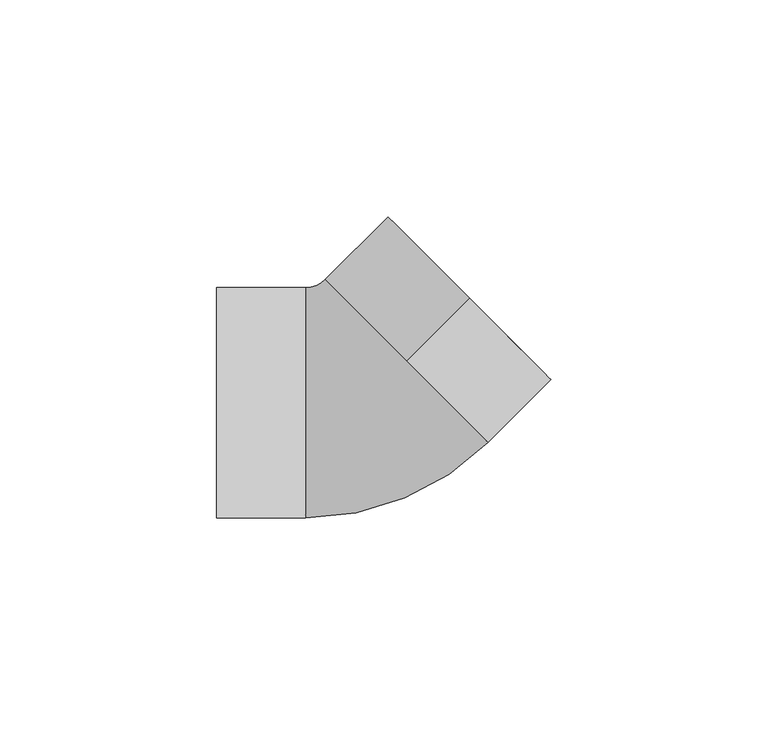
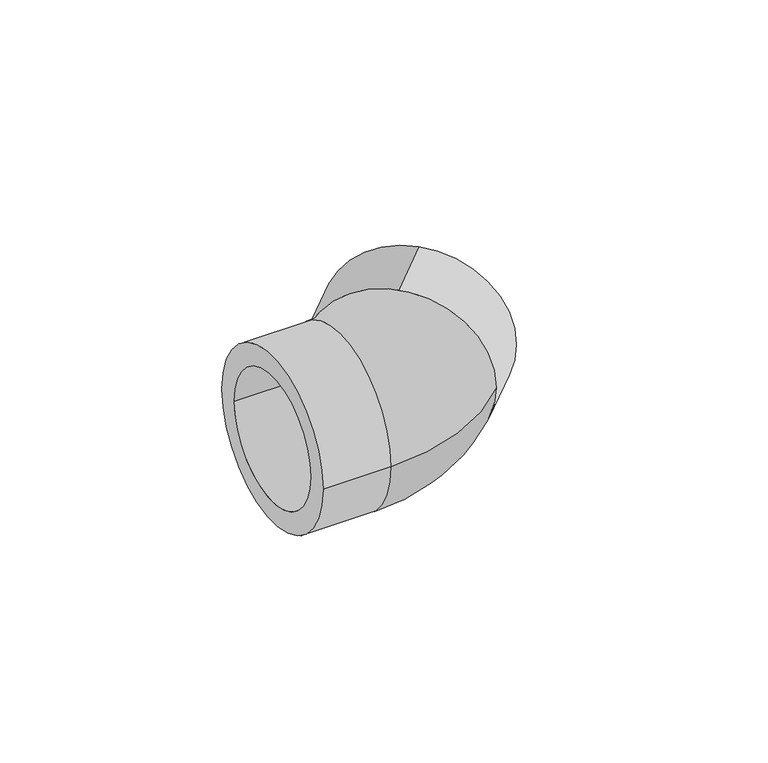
"""IFC4 building model written with IfcOpenShell, lengths in millimetres: pipe fitting geometry, 34_Угольник полипропиленовый 45 : Белый цвет."""

from ifc_helpers import new_model, si_unit, point, frame, origin, place, context, project, spatial, polyline, circle_curve, ellipse_curve, trimmed, source, transform, mapped, element, save
from ifc_brep_helpers import plane_surface, cylinder_surface, revolved_surface, advanced_brep


def pipe_fitting_35174708(model_context):
    return source(origin(), model_context, "Body", "AdvancedBrep", [
        advanced_brep(
        [(-34.1069155, -26.5, 0.0), (-34.1069155, 26.5, 0.0), (-34.1069155, -20.0, 0.0), (-34.1069155, 20.0, 0.0), (-13.6069155, 26.5, 0.0), (-13.6069155, -26.5, 0.0), (-13.6069155, 20.0, 0.0), (-13.6069155, -20.0, 0.0), (-13.6069155, -18.5, 0.0), (-13.6069155, 18.5, 0.0), (9.6215422, 9.6215422, 20.0), (9.6215422, 9.6215422, -20.0), (22.7030177, -3.4599332, 0.0), (-3.4599332, 22.7030177, 0.0), (-9.1167875, 28.3598719, 0.0), (28.3598719, -9.1167875, 0.0), (9.6215422, 9.6215422, 26.5), (9.6215422, 9.6215422, -26.5), (24.1172313, 24.1172313, -26.5), (24.1172313, 24.1172313, 26.5), (24.1172313, 24.1172313, -20.0), (24.1172313, 24.1172313, 20.0)],
        [
            (0, 1, circle_curve(frame((-34.1069155, 0.0, 0.0), z_axis=(-1.0, 0.0, 0.0), x_axis=(0.0, 1.0, 0.0)), 26.5)),
            (1, 0, circle_curve(frame((-34.1069155, 0.0, 0.0), z_axis=(-1.0, 0.0, 0.0), x_axis=(0.0, 1.0, 0.0)), 26.5)),
            (2, 3, circle_curve(frame((-34.1069155, 0.0, 0.0), z_axis=(1.0, 0.0, 0.0), x_axis=(0.0, 1.0, 0.0)), 20.0)),
            (3, 2, circle_curve(frame((-34.1069155, 0.0, 0.0), z_axis=(1.0, 0.0, 0.0), x_axis=(0.0, 1.0, 0.0)), 20.0)),
            (1, 4),
            (4, 5, circle_curve(frame((-13.6069155, 0.0, 0.0), z_axis=(-1.0, 0.0, 0.0), x_axis=(0.0, 1.0, 0.0)), 26.5)),
            (5, 0),
            (5, 4, circle_curve(frame((-13.6069155, 0.0, 0.0), z_axis=(-1.0, 0.0, 0.0), x_axis=(0.0, 1.0, 0.0)), 26.5)),
            (3, 6),
            (6, 7, circle_curve(frame((-13.6069155, 0.0, 0.0), z_axis=(1.0, 0.0, 0.0), x_axis=(0.0, 1.0, 0.0)), 20.0)),
            (7, 2),
            (7, 6, circle_curve(frame((-13.6069155, 0.0, 0.0), z_axis=(1.0, 0.0, 0.0), x_axis=(0.0, 1.0, 0.0)), 20.0)),
            (8, 9, circle_curve(frame((-13.6069155, 0.0, 0.0), z_axis=(1.0, 0.0, 0.0), x_axis=(0.0, 1.0, 0.0)), 18.5)),
            (9, 8, circle_curve(frame((-13.6069155, 0.0, 0.0), z_axis=(1.0, 0.0, 0.0), x_axis=(0.0, 1.0, 0.0)), 18.5)),
            (10, 11, circle_curve(frame((9.6215422, 9.6215422, 0.0), z_axis=(0.707106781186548, 0.707106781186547, 0.0), x_axis=(0.0, 0.0, 1.0)), 20.0)),
            (11, 10, circle_curve(frame((9.6215422, 9.6215422, 0.0), z_axis=(0.707106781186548, 0.707106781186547, 0.0), x_axis=(0.0, 0.0, 1.0)), 20.0)),
            (12, 13, circle_curve(frame((9.6215422, 9.6215422, 0.0), z_axis=(-0.7071067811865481, -0.7071067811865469, 0.0), x_axis=(-0.7071067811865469, 0.7071067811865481, 0.0)), 18.5)),
            (13, 12, circle_curve(frame((9.6215422, 9.6215422, 0.0), z_axis=(-0.7071067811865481, -0.7071067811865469, 0.0), x_axis=(-0.7071067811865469, 0.7071067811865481, 0.0)), 18.5)),
            (14, 4, circle_curve(frame((-13.6069155, 32.85, 0.0), z_axis=(0.0, 0.0, -1.0), x_axis=(0.0, -1.0, 0.0)), 6.35)),
            (5, 15, circle_curve(frame((-13.6069155, 32.85, 0.0), z_axis=(0.0, 0.0, 1.0), x_axis=(0.0, -1.0, 0.0)), 59.35)),
            (15, 16, circle_curve(frame((9.6215422, 9.6215422, 0.0), z_axis=(-0.7071067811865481, -0.7071067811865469, 0.0), x_axis=(-0.7071067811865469, 0.7071067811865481, 0.0)), 26.5)),
            (16, 14, circle_curve(frame((9.6215422, 9.6215422, 0.0), z_axis=(-0.7071067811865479, -0.7071067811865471, 0.0), x_axis=(-0.7071067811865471, 0.7071067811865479, 0.0)), 26.5)),
            (14, 17, circle_curve(frame((9.6215422, 9.6215422, 0.0), z_axis=(-0.7071067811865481, -0.7071067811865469, 0.0), x_axis=(-0.7071067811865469, 0.7071067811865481, 0.0)), 26.5)),
            (17, 15, circle_curve(frame((9.6215422, 9.6215422, 0.0), z_axis=(-0.7071067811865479, -0.7071067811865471, 0.0), x_axis=(-0.7071067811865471, 0.7071067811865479, 0.0)), 26.5)),
            (8, 12, circle_curve(frame((-13.6069155, 32.85, 0.0), z_axis=(0.0, 0.0, 1.0), x_axis=(0.0, -1.0, 0.0)), 51.35)),
            (13, 9, circle_curve(frame((-13.6069155, 32.85, 0.0), z_axis=(0.0, 0.0, -1.0), x_axis=(0.0, -1.0, 0.0)), 14.35)),
            (18, 19, circle_curve(frame((24.1172313, 24.1172313, 0.0), z_axis=(0.707106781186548, 0.707106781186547, 0.0), x_axis=(0.0, 0.0, 1.0)), 26.5)),
            (19, 18, circle_curve(frame((24.1172313, 24.1172313, 0.0), z_axis=(0.707106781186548, 0.707106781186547, 0.0), x_axis=(0.0, 0.0, 1.0)), 26.5)),
            (20, 21, circle_curve(frame((24.1172313, 24.1172313, 0.0), z_axis=(-0.707106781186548, -0.707106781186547, 0.0), x_axis=(0.0, 0.0, 1.0)), 20.0)),
            (21, 20, circle_curve(frame((24.1172313, 24.1172313, 0.0), z_axis=(-0.707106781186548, -0.707106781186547, 0.0), x_axis=(0.0, 0.0, 1.0)), 20.0)),
            (18, 17),
            (16, 19),
            (20, 11),
            (10, 21),
        ],
        [
            plane_surface(frame((-34.1069155, 26.5, 0.0), z_axis=(-1.0, 0.0, 0.0), x_axis=(0.0, 0.0, -1.0))),
            cylinder_surface(frame((-34.1069155, 0.0, 0.0), z_axis=(1.0, 0.0, 0.0), x_axis=(0.0, 1.0, 0.0)), 26.5),
            revolved_surface(polyline([(-34.1069155, 20.0, 0.0), (-13.6069155, 20.0, 0.0)]), (0.0, 0.0, 0.0), (-1.0, 0.0, 0.0)),
            plane_surface(frame((-13.6069155, 0.0, 0.0), z_axis=(-1.0, 0.0, 0.0), x_axis=(0.0, 0.0, 1.0))),
            plane_surface(frame((9.6215422, 9.6215422, 0.0), z_axis=(0.707106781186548, 0.707106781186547, 0.0), x_axis=(0.0, 0.0, 1.0))),
            revolved_surface(trimmed(ellipse_curve(frame((-13.6069155, 0.0, 0.0), z_axis=(-1.0, 0.0, 0.0), x_axis=(0.0, 1.0, 0.0)), 26.5, 26.5), [point((-13.6069155, -26.5, 0.0))], [point((-13.6069155, 26.5, 0.0))], True, "CARTESIAN"), (-13.6069155, 32.85, 0.0), (0.0, 0.0, 1.0)),
            revolved_surface(trimmed(ellipse_curve(frame((-13.6069155, 0.0, 0.0), z_axis=(-1.0, 0.0, 0.0), x_axis=(0.0, 1.0, 0.0)), 26.5, 26.5), [point((-13.6069155, 26.5, 0.0))], [point((-13.6069155, -26.5, 0.0))], True, "CARTESIAN"), (-13.6069155, 32.85, 0.0), (0.0, 0.0, 1.0)),
            revolved_surface(trimmed(ellipse_curve(frame((-13.6069155, 0.0, 0.0), z_axis=(1.0, 0.0, 0.0), x_axis=(0.0, 1.0, 0.0)), 18.5, 18.5), [point((-13.6069155, -18.5, 0.0))], [point((-13.6069155, 18.5, 0.0))], True, "CARTESIAN"), (-13.6069155, 32.85, 0.0), (0.0, 0.0, 1.0)),
            revolved_surface(trimmed(ellipse_curve(frame((-13.6069155, 0.0, 0.0), z_axis=(1.0, 0.0, 0.0), x_axis=(0.0, 1.0, 0.0)), 18.5, 18.5), [point((-13.6069155, 18.5, 0.0))], [point((-13.6069155, -18.5, 0.0))], True, "CARTESIAN"), (-13.6069155, 32.85, 0.0), (0.0, 0.0, 1.0)),
            plane_surface(frame((24.1172313, 24.1172313, 26.5), z_axis=(0.707106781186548, 0.707106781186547, 0.0), x_axis=(0.707106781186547, -0.707106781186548, 0.0))),
            cylinder_surface(frame((9.6215422, 9.6215422, 0.0), z_axis=(0.707106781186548, 0.707106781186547, 0.0), x_axis=(0.0, 0.0, 1.0)), 26.5),
            revolved_surface(polyline([(9.6215422, 9.6215422, 20.0), (24.117231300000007, 24.11723129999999, 20.0)]), (9.6215422, 9.6215422, 0.0), (-0.707106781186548, -0.707106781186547, 0.0)),
        ],
        [
            (0, [[1, 2], [3, 4]]),
            (1, [[-2, 5, 6, 7]]),
            (1, [[-1, -7, 8, -5]]),
            (2, [[-4, 9, 10, 11]]),
            (2, [[-3, -11, 12, -9]]),
            (3, [[-10, -12], [13, 14]]),
            (4, [[15, 16], [17, 18]]),
            (5, [[19, -8, 20, 21, 22]]),
            (6, [[-19, 23, 24, -20, -6]]),
            (7, [[-13, 25, -18, 26]]),
            (8, [[-14, -26, -17, -25]]),
            (9, [[27, 28], [29, 30]]),
            (10, [[-27, 31, -23, -22, 32]]),
            (10, [[-28, -32, -21, -24, -31]]),
            (11, [[-29, 33, -15, 34]]),
            (11, [[-30, -34, -16, -33]]),
        ],
    ),
    ])


if __name__ == "__main__":
    model = new_model("IFC4")
    model_context = context("Model", 3, world=origin())
    ifc_project = project(units=[si_unit("LENGTHUNIT", "METRE", prefix="MILLI")], contexts=[model_context])
    site = spatial("IfcSite", under=ifc_project)
    building = spatial("IfcBuilding", under=site)
    placement = place(None, origin())
    pipe_fitting_shape = pipe_fitting_35174708(model_context)
    element("IfcPipeFitting", 1, ObjectType="34_Угольник полипропиленовый 45 : Белый цвет", at=placement, inside=building, context=model_context, shape_type="MappedRepresentation", body=[
        mapped(pipe_fitting_shape, transform((0.0, 0.0, 0.0), x_axis=(1.0, 0.0, 0.0), y_axis=(0.0, 1.0, 0.0), z_axis=(0.0, 0.0, 1.0))),
    ])
    save(model, "model.ifc")
